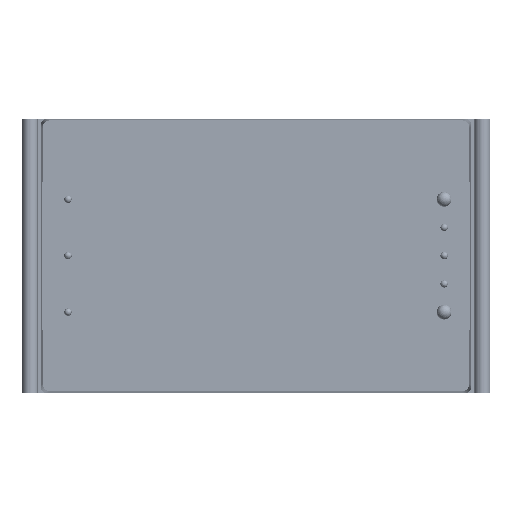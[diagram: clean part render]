
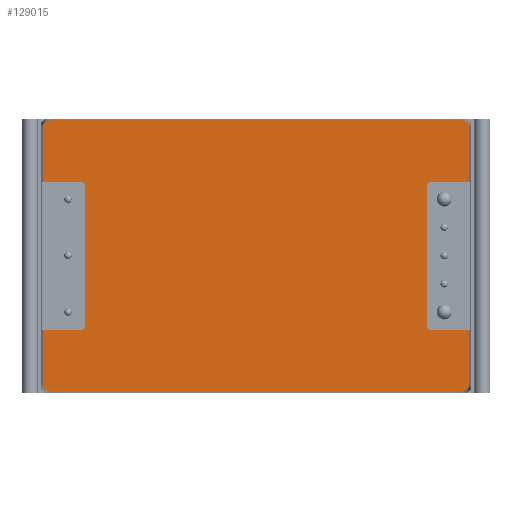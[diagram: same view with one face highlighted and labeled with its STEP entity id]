
A CAD part, top view. The second image highlights one B-rep face of the part: STEP entity #129015.
In plain terms, the highlighted planar face has unit normal (0, 0, 1) as drawn and (0, 0, -1) by its records, which use the part's own axes.
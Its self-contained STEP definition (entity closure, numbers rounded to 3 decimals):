
#891=ELLIPSE($,#142516,1.,1.);
#892=ELLIPSE($,#142517,1.,1.);
#893=ELLIPSE($,#142518,1.,1.);
#894=ELLIPSE($,#142519,1.,1.);
#11200=CIRCLE($,#142488,0.5);
#11202=CIRCLE($,#142492,0.5);
#11209=CIRCLE($,#142503,0.5);
#11211=CIRCLE($,#142507,0.5);
#20520=PLANE($,#142515);
#28172=FACE_OUTER_BOUND($,#36679,.T.);
#36679=EDGE_LOOP($,(#119351,#119352,#119353,#119354,#119355,#119356,#119357,
#119358,#119359,#119360,#119361,#119362,#119363,#119364,#119365,#119366,
#119367,#119368,#119369,#119370));
#44998=LINE($,#235142,#53363);
#45004=LINE($,#235157,#53369);
#45006=LINE($,#235162,#53371);
#45011=LINE($,#235187,#53376);
#45017=LINE($,#235202,#53382);
#45019=LINE($,#235207,#53384);
#45022=LINE($,#235219,#53387);
#45023=LINE($,#235223,#53388);
#45024=LINE($,#235226,#53389);
#45025=LINE($,#235228,#53390);
#45026=LINE($,#235232,#53391);
#45027=LINE($,#235235,#53392);
#53363=VECTOR($,#177112,19.);
#53369=VECTOR($,#177126,5.229);
#53371=VECTOR($,#177130,5.229);
#53376=VECTOR($,#177155,19.);
#53382=VECTOR($,#177169,5.229);
#53384=VECTOR($,#177173,5.229);
#53387=VECTOR($,#177186,7.28);
#53388=VECTOR($,#177189,55.659);
#53389=VECTOR($,#177192,7.28);
#53390=VECTOR($,#177193,7.28);
#53391=VECTOR($,#177196,55.659);
#53392=VECTOR($,#177199,7.28);
#65499=VERTEX_POINT($,#235132);
#65500=VERTEX_POINT($,#235133);
#65503=VERTEX_POINT($,#235141);
#65505=VERTEX_POINT($,#235147);
#65508=VERTEX_POINT($,#235154);
#65509=VERTEX_POINT($,#235159);
#65516=VERTEX_POINT($,#235177);
#65517=VERTEX_POINT($,#235178);
#65520=VERTEX_POINT($,#235186);
#65522=VERTEX_POINT($,#235192);
#65525=VERTEX_POINT($,#235199);
#65526=VERTEX_POINT($,#235204);
#65531=VERTEX_POINT($,#235218);
#65532=VERTEX_POINT($,#235220);
#65533=VERTEX_POINT($,#235222);
#65534=VERTEX_POINT($,#235224);
#65535=VERTEX_POINT($,#235227);
#65536=VERTEX_POINT($,#235229);
#65537=VERTEX_POINT($,#235231);
#65538=VERTEX_POINT($,#235233);
#82511=EDGE_CURVE($,#65499,#65500,#11200,.T.);
#82515=EDGE_CURVE($,#65503,#65499,#44998,.T.);
#82518=EDGE_CURVE($,#65505,#65503,#11202,.T.);
#82523=EDGE_CURVE($,#65508,#65505,#45004,.T.);
#82525=EDGE_CURVE($,#65500,#65509,#45006,.T.);
#82533=EDGE_CURVE($,#65516,#65517,#11209,.T.);
#82537=EDGE_CURVE($,#65520,#65516,#45011,.T.);
#82540=EDGE_CURVE($,#65522,#65520,#11211,.T.);
#82545=EDGE_CURVE($,#65525,#65522,#45017,.T.);
#82547=EDGE_CURVE($,#65517,#65526,#45019,.T.);
#82553=EDGE_CURVE($,#65509,#65531,#45022,.T.);
#82554=EDGE_CURVE($,#65532,#65531,#891,.T.);
#82555=EDGE_CURVE($,#65532,#65533,#45023,.T.);
#82556=EDGE_CURVE($,#65534,#65533,#892,.T.);
#82557=EDGE_CURVE($,#65534,#65525,#45024,.T.);
#82558=EDGE_CURVE($,#65526,#65535,#45025,.T.);
#82559=EDGE_CURVE($,#65536,#65535,#893,.T.);
#82560=EDGE_CURVE($,#65536,#65537,#45026,.T.);
#82561=EDGE_CURVE($,#65538,#65537,#894,.T.);
#82562=EDGE_CURVE($,#65538,#65508,#45027,.T.);
#119351=ORIENTED_EDGE($,*,*,#82523,.T.);
#119352=ORIENTED_EDGE($,*,*,#82518,.T.);
#119353=ORIENTED_EDGE($,*,*,#82515,.T.);
#119354=ORIENTED_EDGE($,*,*,#82511,.T.);
#119355=ORIENTED_EDGE($,*,*,#82525,.T.);
#119356=ORIENTED_EDGE($,*,*,#82553,.T.);
#119357=ORIENTED_EDGE($,*,*,#82554,.F.);
#119358=ORIENTED_EDGE($,*,*,#82555,.T.);
#119359=ORIENTED_EDGE($,*,*,#82556,.F.);
#119360=ORIENTED_EDGE($,*,*,#82557,.T.);
#119361=ORIENTED_EDGE($,*,*,#82545,.T.);
#119362=ORIENTED_EDGE($,*,*,#82540,.T.);
#119363=ORIENTED_EDGE($,*,*,#82537,.T.);
#119364=ORIENTED_EDGE($,*,*,#82533,.T.);
#119365=ORIENTED_EDGE($,*,*,#82547,.T.);
#119366=ORIENTED_EDGE($,*,*,#82558,.T.);
#119367=ORIENTED_EDGE($,*,*,#82559,.F.);
#119368=ORIENTED_EDGE($,*,*,#82560,.T.);
#119369=ORIENTED_EDGE($,*,*,#82561,.F.);
#119370=ORIENTED_EDGE($,*,*,#82562,.T.);
#129015=ADVANCED_FACE($,(#28172),#20520,.F.);
#142488=AXIS2_PLACEMENT_3D($,#235134,#177104,#177105);
#142492=AXIS2_PLACEMENT_3D($,#235148,#177117,#177118);
#142503=AXIS2_PLACEMENT_3D($,#235179,#177147,#177148);
#142507=AXIS2_PLACEMENT_3D($,#235193,#177160,#177161);
#142515=AXIS2_PLACEMENT_3D($,#235217,#177184,#177185);
#142516=AXIS2_PLACEMENT_3D($,#235221,#177187,#177188);
#142517=AXIS2_PLACEMENT_3D($,#235225,#177190,#177191);
#142518=AXIS2_PLACEMENT_3D($,#235230,#177194,#177195);
#142519=AXIS2_PLACEMENT_3D($,#235234,#177197,#177198);
#177104=DIRECTION('center_axis',(0.,0.,1.));
#177105=DIRECTION('ref_axis',(0.,-1.,0.));
#177112=DIRECTION($,(0.,-1.,0.));
#177117=DIRECTION('center_axis',(0.,0.,1.));
#177118=DIRECTION('ref_axis',(-1.,0.,0.));
#177126=DIRECTION($,(-1.,0.,0.));
#177130=DIRECTION($,(1.,0.,0.));
#177147=DIRECTION('center_axis',(0.,0.,1.));
#177148=DIRECTION('ref_axis',(0.,1.,0.));
#177155=DIRECTION($,(0.,1.,0.));
#177160=DIRECTION('center_axis',(0.,0.,1.));
#177161=DIRECTION('ref_axis',(1.,0.,0.));
#177169=DIRECTION($,(1.,0.,0.));
#177173=DIRECTION($,(-1.,0.,0.));
#177184=DIRECTION('center_axis',(0.,0.,1.));
#177185=DIRECTION('ref_axis',(1.,0.,0.));
#177186=DIRECTION($,(0.,-1.,0.));
#177187=DIRECTION('center_axis',(0.,0.,1.));
#177188=DIRECTION('ref_axis',(0.707,-0.707,0.));
#177189=DIRECTION($,(-1.,0.,0.));
#177190=DIRECTION('center_axis',(0.,0.,1.));
#177191=DIRECTION('ref_axis',(-0.707,-0.707,0.));
#177192=DIRECTION($,(0.,1.,0.));
#177193=DIRECTION($,(0.,1.,0.));
#177194=DIRECTION('center_axis',(0.,0.,1.));
#177195=DIRECTION('ref_axis',(-0.707,0.707,0.));
#177196=DIRECTION($,(1.,0.,0.));
#177197=DIRECTION('center_axis',(0.,0.,1.));
#177198=DIRECTION('ref_axis',(0.707,0.707,0.));
#177199=DIRECTION($,(0.,-1.,0.));
#235132=CARTESIAN_POINT('',(23.1,-9.5,0.));
#235133=CARTESIAN_POINT('',(23.6,-10.,0.));
#235134=CARTESIAN_POINT('Origin',(23.6,-9.5,0.));
#235141=CARTESIAN_POINT('',(23.1,9.5,0.));
#235142=CARTESIAN_POINT($,(23.1,4.75,0.));
#235147=CARTESIAN_POINT('',(23.6,10.,0.));
#235148=CARTESIAN_POINT('Origin',(23.6,9.5,0.));
#235154=CARTESIAN_POINT('',(28.829,10.,0.));
#235157=CARTESIAN_POINT($,(14.55,10.,0.));
#235159=CARTESIAN_POINT('',(28.829,-10.,0.));
#235162=CARTESIAN_POINT($,(11.8,-10.,0.));
#235177=CARTESIAN_POINT('',(-23.1,9.5,0.));
#235178=CARTESIAN_POINT('',(-23.6,10.,0.));
#235179=CARTESIAN_POINT('Origin',(-23.6,9.5,0.));
#235186=CARTESIAN_POINT('',(-23.1,-9.5,0.));
#235187=CARTESIAN_POINT($,(-23.1,-4.75,0.));
#235192=CARTESIAN_POINT('',(-23.6,-10.,0.));
#235193=CARTESIAN_POINT('Origin',(-23.6,-9.5,0.));
#235199=CARTESIAN_POINT('',(-28.829,-10.,0.));
#235202=CARTESIAN_POINT($,(-14.55,-10.,0.));
#235204=CARTESIAN_POINT('',(-28.829,10.,0.));
#235207=CARTESIAN_POINT($,(-11.8,10.,0.));
#235217=CARTESIAN_POINT('Origin',(0.,0.,0.));
#235218=CARTESIAN_POINT('',(28.829,-17.28,0.));
#235219=CARTESIAN_POINT($,(28.829,-9.275,0.));
#235220=CARTESIAN_POINT('',(27.83,-18.279,0.));
#235221=CARTESIAN_POINT('Origin',(27.829,-17.279,0.));
#235222=CARTESIAN_POINT('',(-27.83,-18.279,0.));
#235223=CARTESIAN_POINT($,(-14.55,-18.279,0.));
#235224=CARTESIAN_POINT('',(-28.829,-17.28,0.));
#235225=CARTESIAN_POINT('Origin',(-27.829,-17.279,0.));
#235226=CARTESIAN_POINT($,(-28.829,9.275,0.));
#235227=CARTESIAN_POINT('',(-28.829,17.28,0.));
#235228=CARTESIAN_POINT($,(-28.829,9.275,0.));
#235229=CARTESIAN_POINT('',(-27.83,18.279,0.));
#235230=CARTESIAN_POINT('Origin',(-27.829,17.279,0.));
#235231=CARTESIAN_POINT('',(27.83,18.279,0.));
#235232=CARTESIAN_POINT($,(14.55,18.279,0.));
#235233=CARTESIAN_POINT('',(28.829,17.28,0.));
#235234=CARTESIAN_POINT('Origin',(27.829,17.279,0.));
#235235=CARTESIAN_POINT($,(28.829,-9.275,0.));
